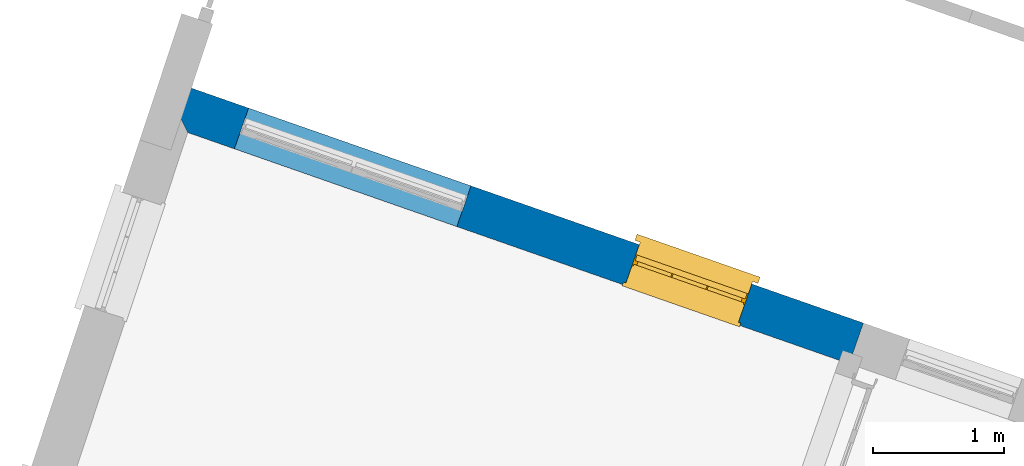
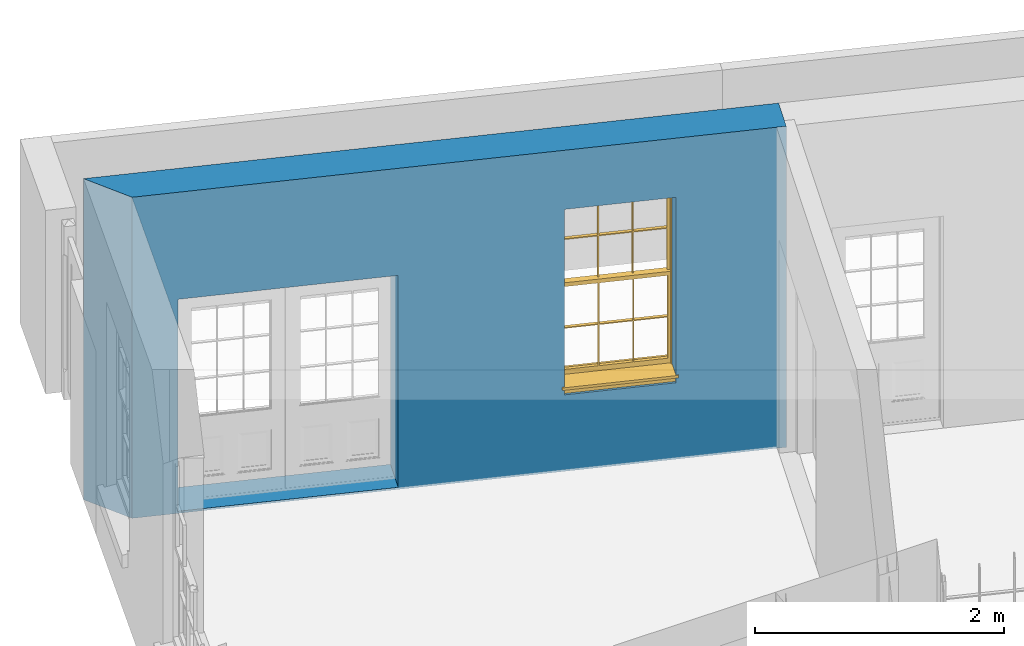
# One storey, part 7 of 10: 1 wall, 1 window, 2 openings.
"""IFC4 building model written with IfcOpenShell, lengths in metres."""

from ifc_helpers import new_model, si_unit, frame, origin, origin_with_axes, place, context, subcontext, project, spatial, polyline, outline, extrude, faceted_brep, source, transform, mapped, material, layer, layer_set, layer_usage, type_object, type_shapes, element, fill, save


model = new_model("IFC4")

# Units and contexts
model_context = context("Model", 3, world=origin_with_axes())
body_context = subcontext(model_context, "Body", "Model", "MODEL_VIEW")
ifc_project = project(units=[si_unit("PLANEANGLEUNIT", "RADIAN"), si_unit("MASSUNIT", "GRAM", prefix="KILO"), si_unit("FORCEUNIT", "NEWTON", prefix="KILO"), si_unit("LENGTHUNIT", "METRE"), si_unit("AREAUNIT", "SQUARE_METRE"), si_unit("VOLUMEUNIT", "CUBIC_METRE")], contexts=[model_context, model_context])

# Sites, building, storey
site_1_placement = place(None, origin_with_axes())
site_1 = spatial("IfcSite", under=ifc_project, at=site_1_placement, Name="Tamar")
site_2_placement = place(site_1_placement, origin_with_axes())
site_2 = spatial("IfcSite", under=site_1, at=site_2_placement, Name="Site plot-15", CompositionType="ELEMENT")
building_placement = place(None, origin_with_axes())
building = spatial("IfcBuilding", under=site_2, at=building_placement, Name="Building plot-15", CompositionType="ELEMENT")
storey_placement = place(None, frame((0.0, 0.0, 26.8), z_axis=(0.0, 0.0, 1.0), x_axis=(1.0, 0.0, 0.0)))
storey = spatial("IfcBuildingStorey", under=building, at=storey_placement, Name="plot-15 0", CompositionType="ELEMENT", Elevation=26.8)

# Wall, openings, window
ifc_material = material(Name="Masonry")
ifc_layer = layer(ifc_material, 0.33, ventilated=False)
ifc_layer_set = layer_set([ifc_layer], Name="exterior_0.08_0.25")
ifc_layer_usage = layer_usage(ifc_layer_set, "AXIS2", "POSITIVE", -0.25)
wall_type = type_object("IfcWallType", Name="exterior_0.08_0.25", PredefinedType="SOLIDWALL", material=ifc_layer_set)
wall_placement = place(storey_placement, frame((263.78081158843, 309.226685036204, 0.0), z_axis=(0.0, 0.0, 1.0), x_axis=(-0.943980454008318, 0.330001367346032, 0.0)))
wall = element("IfcWall", 1, at=wall_placement, inside=storey, type_object=wall_type, material=ifc_layer_usage, Name="exterior", context=body_context, shape_type="SweptSolid", body=[
    extrude(outline(polyline([(-1.12572037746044e-14, 0.0800000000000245), (-6.03540739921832e-15, -0.250000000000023), (5.68693408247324, -0.250000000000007), (5.3516759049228, 0.0800000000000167), (-1.12572037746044e-14, 0.0800000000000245)])), origin_with_axes(), (0.0, 0.0, 1.0), 3.15),
])
opening_1_placement = place(wall_placement, frame((0.90323765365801, 0.0, 0.75)))
opening_1 = element("IfcOpeningElement", 2, at=opening_1_placement, cuts=wall, Name="My Opening", ObjectType="Opening", context=body_context, shape_type="SweptSolid", body=[
    extrude(outline(polyline([(0.0, -0.270000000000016), (0.909999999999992, -0.269999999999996), (0.909999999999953, 1.10000000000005), (-3.8746783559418e-14, 1.10000000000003), (0.0, -0.270000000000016)])), origin_with_axes(), (0.0, 0.0, 1.0), 1.82),
])
opening_2_placement = place(wall_placement, frame((3.17471296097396, 0.0, 0.0199999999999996)))
element("IfcOpeningElement", 3, at=opening_2_placement, cuts=wall, Name="My Opening", ObjectType="Opening", context=body_context, shape_type="SweptSolid", body=[
    extrude(outline(polyline([(0.0, -0.270000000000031), (1.8, -0.27), (1.79999999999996, 1.10000000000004), (-3.90798504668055e-14, 1.10000000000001), (0.0, -0.270000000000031)])), origin_with_axes(), (0.0, 0.0, 1.0), 2.08),
])
window_type = type_object("IfcWindowType", Name="sash_big", PartitioningType="DOUBLE_PANEL_HORIZONTAL", PredefinedType="NOTDEFINED")
shared_shape = source(origin(), body_context, "Body", "Brep", [
    faceted_brep([(0.033125, 0.145, 0.975209), (0.01, 0.145, 0.975209), (0.033125, 0.145, 1.376042), (0.876875, 0.145, 0.975209), (0.876875, 0.145, 1.376042), (0.9, 0.145, 0.975209), (0.876875, 0.145, 1.386042), (0.876875, 0.145, 1.786875), (0.9, 0.145, 1.81), (0.033125, 0.145, 1.786875), (0.033125, 0.145, 1.386042), (0.01, 0.145, 1.81), (0.876875, 0.115, 1.376042), (0.876875, 0.115, 0.975209), (0.9, 0.115, 0.937083), (0.033125, 0.115, 1.786875), (0.01, 0.115, 1.81), (0.033125, 0.115, 1.386042), (0.01, 0.115, 0.937083), (0.033125, 0.115, 0.975209), (0.033125, 0.115, 1.376042), (0.876875, 0.115, 1.786875), (0.876875, 0.115, 1.386042), (0.9, 0.115, 1.81), (0.033125, 0.145, 0.937083), (0.01, 0.145, 0.937083), (0.033125, 0.145, 0.53625), (0.876875, 0.145, 0.937083), (0.876875, 0.145, 0.53625), (0.9, 0.145, 0.937083), (0.876875, 0.145, 0.52625), (0.876875, 0.145, 0.125417), (0.9, 0.145, 0.077167), (0.033125, 0.145, 0.125417), (0.033125, 0.145, 0.52625), (0.01, 0.145, 0.077167), (-0.0425, 0.0, 0.01), (-0.0425, -0.05, 0.001667), (0.0, 0.0, 0.01), (0.9525, 0.0, 0.01), (0.91, 0.0, 0.01), (0.9525, -0.05, 0.001667), (-0.02, 0.33, 0.077167), (0.0, 0.33, 0.077167), (-0.02, 0.36, 0.077167), (0.0, 0.19, 0.077167), (0.01, 0.19, 0.077167), (0.91, 0.19, 0.077167), (0.91, 0.33, 0.077167), (0.9, 0.19, 0.077167), (0.93, 0.33, 0.077167), (0.93, 0.36, 0.077167), (0.01, 0.175, 0.975209), (0.9, 0.175, 0.975209), (0.876875, 0.175, 0.125417), (0.876875, 0.175, 0.52625), (0.9, 0.175, 0.077167), (0.876875, 0.175, 0.53625), (0.876875, 0.175, 0.937083), (0.033125, 0.175, 0.125417), (0.01, 0.175, 0.077167), (0.033125, 0.175, 0.52625), (0.033125, 0.175, 0.937083), (0.033125, 0.175, 0.53625), (-0.02, 0.33, 0.052167), (-0.02, 0.36, 0.052167), (0.93, 0.36, 0.052167), (0.93, 0.33, 0.052167), (0.91, 0.33, 0.052167), (0.0, 0.33, 0.052167), (0.91, 0.1, 0.026667), (0.0, 0.1, 0.026667), (-0.0425, -0.05, -0.123333), (0.9525, -0.05, -0.123333), (-0.0425, 0.0, -0.123333), (0.9525, 0.0, -0.123333), (0.01, 0.19, 1.81), (0.9, 0.19, 1.81), (0.0, 0.19, 1.82), (0.91, 0.19, 1.82), (0.01, 0.1, 0.077167), (0.9, 0.1, 0.077167), (0.592292, 0.145, 0.125417), (0.592292, 0.175, 0.125417), (0.317708, 0.175, 0.125417), (0.317708, 0.145, 0.125417), (0.592292, 0.145, 0.53625), (0.317708, 0.145, 0.53625), (0.317708, 0.145, 0.52625), (0.592292, 0.145, 0.52625), (0.592292, 0.175, 0.53625), (0.317708, 0.175, 0.53625), (0.592292, 0.115, 1.386042), (0.592292, 0.145, 1.386042), (0.317708, 0.145, 1.386042), (0.317708, 0.115, 1.386042), (0.317708, 0.115, 1.376042), (0.592292, 0.115, 1.376042), (0.317708, 0.145, 1.376042), (0.592292, 0.145, 1.376042), (0.602292, 0.115, 1.376042), (0.592292, 0.115, 0.975209), (0.602292, 0.115, 0.975209), (0.602292, 0.145, 0.975209), (0.592292, 0.145, 0.975209), (0.602292, 0.145, 1.376042), (0.602292, 0.175, 0.53625), (0.602292, 0.145, 0.53625), (0.317708, 0.175, 0.52625), (0.307708, 0.175, 0.125417), (0.307708, 0.175, 0.52625), (0.602292, 0.175, 0.52625), (0.602292, 0.175, 0.125417), (0.592292, 0.175, 0.52625), (0.307708, 0.175, 0.53625), (0.317708, 0.175, 0.937083), (0.307708, 0.175, 0.937083), (0.602292, 0.175, 0.937083), (0.592292, 0.175, 0.937083), (0.307708, 0.145, 0.52625), (0.307708, 0.145, 0.125417), (0.307708, 0.145, 0.53625), (0.307708, 0.145, 0.937083), (0.592292, 0.145, 0.937083), (0.317708, 0.145, 0.937083), (0.602292, 0.145, 0.937083), (0.602292, 0.145, 0.52625), (0.602292, 0.145, 0.125417), (0.307708, 0.115, 1.386042), (0.307708, 0.115, 1.376042), (0.307708, 0.115, 0.975209), (0.317708, 0.115, 0.975209), (0.317708, 0.115, 1.786875), (0.307708, 0.115, 1.786875), (0.602292, 0.115, 1.786875), (0.592292, 0.115, 1.786875), (0.602292, 0.115, 1.386042), (0.602292, 0.145, 1.386042), (0.307708, 0.145, 1.386042), (0.307708, 0.145, 1.786875), (0.317708, 0.145, 1.786875), (0.592292, 0.145, 1.786875), (0.602292, 0.145, 1.786875), (0.307708, 0.145, 1.376042), (0.317708, 0.145, 0.975209), (0.307708, 0.145, 0.975209), (0.91, 0.1, 1.82), (0.9, 0.1, 1.81), (0.01, 0.1, 1.81), (0.0, 0.1, 1.82), (0.91, 0.0, 0.0), (0.0, 0.0, 0.0), (0.91, 0.33, 0.0), (0.0, 0.33, 0.0)], [[[0, 1, 2]], [[3, 4, 5]], [[6, 7, 8]], [[9, 10, 11]], [[12, 13, 14]], [[15, 16, 17]], [[18, 19, 20]], [[21, 22, 23]], [[24, 25, 26]], [[27, 28, 29]], [[30, 31, 32]], [[33, 34, 35]], [[14, 27, 29]], [[25, 24, 18]], [[36, 37, 38]], [[39, 40, 41]], [[42, 43, 44]], [[45, 46, 43]], [[47, 48, 49]], [[50, 51, 48]], [[1, 0, 52]], [[5, 53, 3]], [[54, 55, 56]], [[57, 58, 53]], [[59, 60, 61]], [[62, 63, 52]], [[48, 43, 46, 49]], [[51, 44, 43, 48]], [[64, 42, 44, 65]], [[65, 44, 51, 66]], [[66, 51, 50, 67]], [[65, 66, 68, 69]], [[60, 56, 49, 46]], [[70, 71, 38, 40]], [[37, 41, 40, 38]], [[37, 72, 73, 41]], [[74, 75, 73, 72]], [[8, 11, 76, 77]], [[76, 78, 79, 77]], [[32, 35, 80, 81]], [[81, 80, 71, 70]], [[82, 83, 84, 85]], [[86, 87, 88, 89]], [[86, 90, 91, 87]], [[92, 93, 94, 95]], [[92, 95, 96, 97]], [[96, 98, 99, 97]], [[100, 97, 101, 102]], [[103, 104, 99, 105]], [[97, 99, 104, 101]], [[102, 103, 105, 100]], [[28, 57, 106, 107]], [[108, 84, 109, 110]], [[111, 112, 83, 113]], [[114, 110, 61, 63]], [[90, 113, 108, 91]], [[115, 91, 114, 116]], [[117, 106, 90, 118]], [[111, 106, 57, 55]], [[119, 110, 109, 120]], [[34, 61, 110, 119]], [[89, 113, 83, 82]], [[88, 108, 113, 89]], [[85, 84, 108, 88]], [[121, 114, 63, 26]], [[122, 116, 114, 121]], [[123, 118, 90, 86]], [[87, 91, 115, 124]], [[107, 106, 117, 125]], [[126, 111, 55, 30]], [[127, 112, 111, 126]], [[126, 30, 28, 107]], [[88, 119, 120, 85]], [[126, 89, 82, 127]], [[125, 123, 86, 107]], [[121, 26, 34, 119]], [[124, 122, 121, 87]], [[128, 17, 20, 129]], [[96, 129, 130, 131]], [[132, 133, 128, 95]], [[134, 135, 92, 136]], [[100, 12, 22, 136]], [[137, 6, 4, 105]], [[94, 138, 139, 140]], [[137, 93, 141, 142]], [[99, 98, 94, 93]], [[143, 2, 10, 138]], [[144, 145, 143, 98]], [[129, 143, 145, 130]], [[20, 2, 143, 129]], [[131, 144, 98, 96]], [[128, 138, 10, 17]], [[133, 139, 138, 128]], [[135, 141, 93, 92]], [[95, 94, 140, 132]], [[22, 6, 137, 136]], [[136, 137, 142, 134]], [[100, 105, 4, 12]], [[107, 86, 89, 126]], [[106, 111, 113, 90]], [[91, 108, 110, 114]], [[87, 121, 119, 88]], [[97, 100, 136, 92]], [[129, 96, 95, 128]], [[98, 143, 138, 94]], [[105, 99, 93, 137]], [[131, 101, 104, 144]], [[124, 115, 118, 123]], [[132, 140, 141, 135]], [[120, 109, 59, 33]], [[15, 9, 139, 133]], [[134, 142, 7, 21]], [[31, 54, 112, 127]], [[36, 74, 72, 37]], [[39, 41, 73, 75]], [[18, 14, 101, 131]], [[23, 16, 132, 135]], [[83, 56, 60, 84]], [[52, 53, 118, 115]], [[53, 52, 144, 104]], [[11, 8, 141, 140]], [[14, 18, 124, 123]], [[2, 1, 11, 10]], [[8, 5, 4, 6]], [[57, 53, 56, 55]], [[60, 52, 63, 61]], [[26, 25, 35, 34]], [[32, 29, 28, 30]], [[14, 23, 22, 12]], [[18, 20, 17, 16]], [[19, 0, 2, 20]], [[17, 10, 9, 15]], [[12, 4, 3, 13]], [[21, 7, 6, 22]], [[27, 58, 57, 28]], [[30, 55, 54, 31]], [[33, 59, 61, 34]], [[26, 63, 62, 24]], [[5, 8, 77, 53]], [[76, 11, 1, 52]], [[46, 45, 78, 76]], [[49, 77, 79, 47]], [[70, 146, 147, 81]], [[71, 80, 148, 149]], [[19, 130, 145, 0]], [[102, 13, 3, 103]], [[116, 122, 24, 62]], [[29, 32, 81, 14]], [[80, 35, 25, 18]], [[60, 46, 76, 52]], [[77, 49, 56, 53]], [[23, 14, 81, 147]], [[16, 148, 80, 18]], [[35, 85, 120]], [[120, 33, 35]], [[127, 82, 32]], [[32, 31, 127]], [[32, 82, 85, 35]], [[102, 101, 14]], [[14, 13, 102]], [[18, 131, 130]], [[130, 19, 18]], [[134, 21, 23]], [[23, 135, 134]], [[16, 15, 133]], [[133, 132, 16]], [[11, 140, 139]], [[139, 9, 11]], [[142, 141, 8]], [[8, 7, 142]], [[23, 147, 148, 16]], [[146, 149, 148, 147]], [[52, 115, 116]], [[116, 62, 52]], [[118, 53, 117]], [[58, 117, 53]], [[27, 125, 117, 58]], [[56, 83, 112]], [[112, 54, 56]], [[109, 84, 60]], [[60, 59, 109]], [[125, 27, 14]], [[14, 123, 125]], [[122, 124, 18]], [[18, 24, 122]], [[145, 144, 52]], [[52, 0, 145]], [[103, 3, 53]], [[53, 104, 103]], [[79, 78, 149, 146]], [[78, 45, 71, 149]], [[146, 70, 47, 79]], [[150, 75, 74, 151]], [[68, 66, 67]], [[48, 68, 67, 50]], [[69, 64, 65]], [[42, 64, 69, 43]], [[69, 68, 152, 153]], [[70, 68, 48, 47]], [[150, 152, 68, 70]], [[43, 69, 71, 45]], [[69, 153, 151, 71]], [[152, 150, 151, 153]], [[38, 151, 74, 36]], [[71, 151, 38]], [[39, 75, 150, 40]], [[40, 150, 70]]]),
])
type_shapes(window_type, [shared_shape])
window_placement = place(storey_placement, frame((263.017273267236, 309.779629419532, 0.75), z_axis=(0.0, 0.0, 1.0), x_axis=(-0.859022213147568, 0.300301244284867, 0.0)))
window = element("IfcWindow", 4, at=window_placement, inside=storey, type_object=window_type, Name="living sahn window", OverallHeight=1.82, OverallWidth=0.91, context=body_context, shape_type="MappedRepresentation", body=[
    mapped(shared_shape, transform((0.0, 0.0, 0.0), scale=1.0)),
])
fill(opening_1, window)

save(model, "model.ifc")
